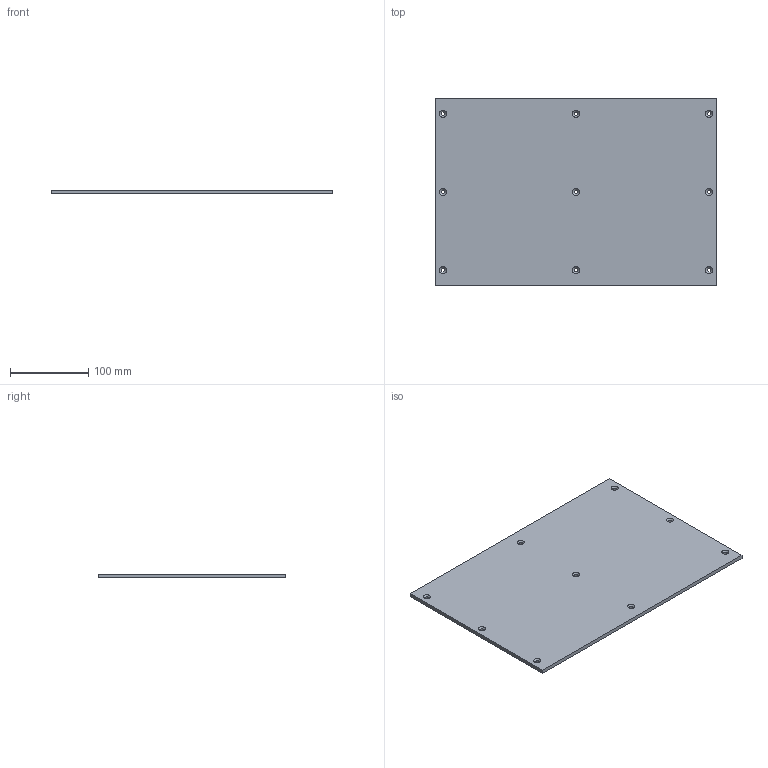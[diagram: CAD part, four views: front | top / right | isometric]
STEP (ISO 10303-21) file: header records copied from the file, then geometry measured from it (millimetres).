
FILE_DESCRIPTION (( 'STEP AP203' ), '1' );
FILE_NAME ('Plaque_Acier.STEP', '2026-06-24T07:29:48', ( '' ), ( '' ), 'SwSTEP 2.0', 'SolidWorks 2024', '' );
FILE_SCHEMA (( 'CONFIG_CONTROL_DESIGN' ));
Length unit declared in the file: millimetre
Products named in the file (1): Plaque_Acier
Bounding box: 360 x 240 x 5 mm (x, y, z)
Volume: 430758.3 mm3; surface area: 179034.6 mm2
Topology: 1 solids, 1 shells, 24 faces, 66 edges, 44 vertices
Faces by surface type: cylinder 9, cone 9, plane 6
Full cylindrical faces by diameter (mm): 5 x9
Entity records: 717 total; most frequent: DIRECTION 116, CARTESIAN_POINT 99, ORIENTED_EDGE 78, EDGE_LOOP 60, AXIS2_PLACEMENT_3D 52, EDGE_CURVE 39, VERTEX_POINT 35, FACE_OUTER_BOUND 33
